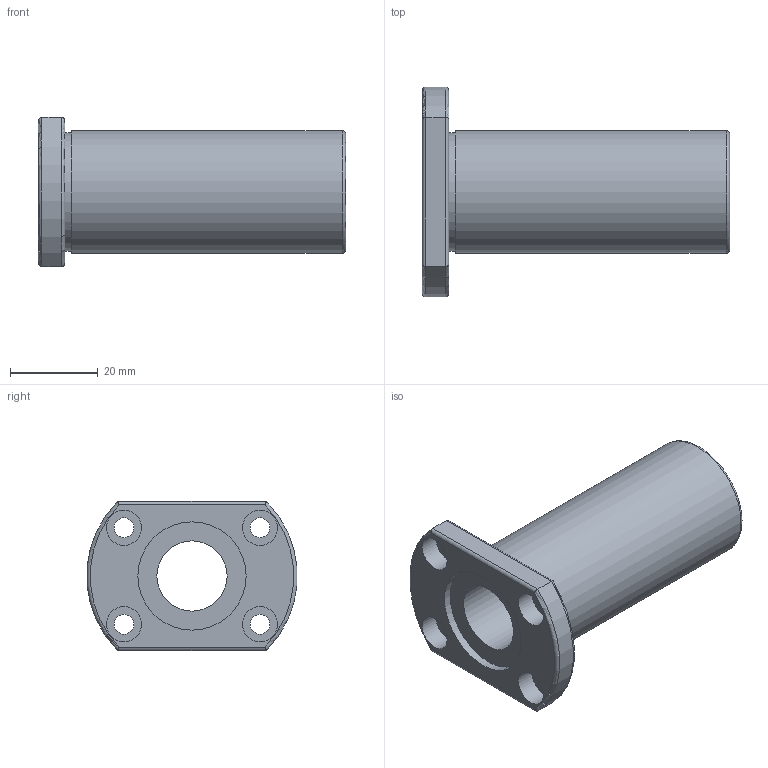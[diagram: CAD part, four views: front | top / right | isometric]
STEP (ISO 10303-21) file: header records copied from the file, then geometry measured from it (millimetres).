
FILE_DESCRIPTION( ( 'Unknown' ), '1' );
FILE_NAME( 'D:/累诀/己绕皋墨飘肺葱胶/11-04-06_档搁累己/01_府聪绢何教/LMH L/LMH 16L.stp', 'Unknown', ( 'Unknown' ), ( 'Unknown' ), 'PSStep 11.0', 'Unknown', ' ' );
FILE_SCHEMA( ( 'AUTOMOTIVE_DESIGN { 1 0 10303 214 1 1 1 1 }' ) );
Length unit declared in the file: millimetre
Products named in the file (1): 1
Bounding box: 70 x 47.82 x 34 mm (x, y, z)
Volume: 32101.1 mm3; surface area: 13030.5 mm2
Topology: 1 solids, 1 shells, 36 faces, 73 edges, 47 vertices
Faces by surface type: cylinder 19, plane 12, torus 5
Full cylindrical faces by diameter (mm): 4.5 x4, 8 x4, 16 x1, 24.687 x2, 27 x1, 28 x1
Entity records: 1210 total; most frequent: CARTESIAN_POINT 191, DIRECTION 156, ORIENTED_EDGE 110, AXIS2_PLACEMENT_3D 72, EDGE_LOOP 68, EDGE_CURVE 55, FACE_OUTER_BOUND 50, VERTEX_POINT 43
